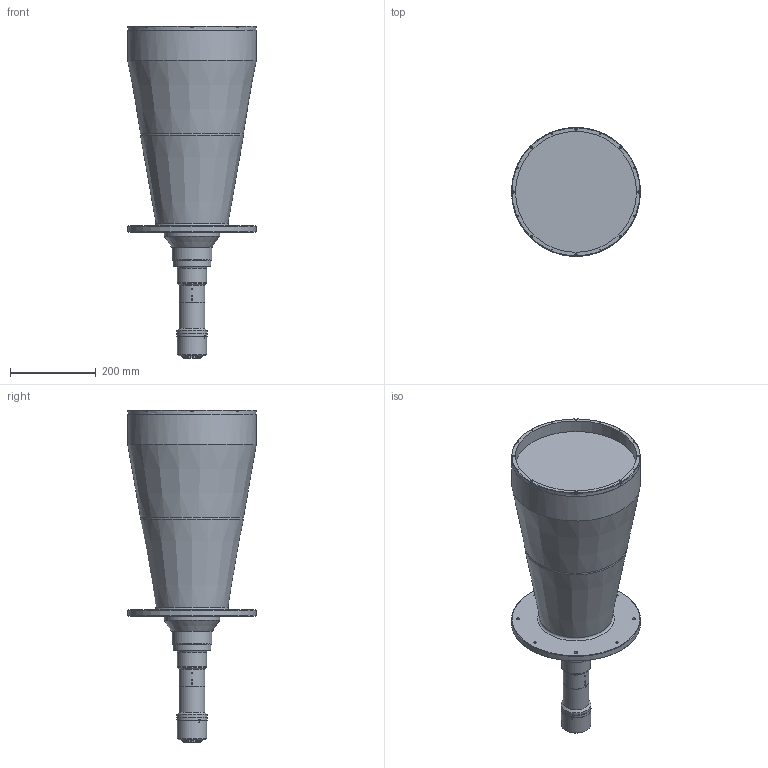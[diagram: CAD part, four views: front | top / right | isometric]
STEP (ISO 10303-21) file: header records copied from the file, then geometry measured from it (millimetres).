
FILE_DESCRIPTION (( 'STEP AP203' ), '1' );
FILE_NAME ('3d_mtl-24035p-015_a002.STEP', '2017-06-23T05:30:30', ( '' ), ( '' ), 'SwSTEP 2.0', 'SolidWorks 2014', '' );
FILE_SCHEMA (( 'CONFIG_CONTROL_DESIGN' ));
Length unit declared in the file: millimetre
Products named in the file (1): 3d_mtl-24035p-015_a002
Bounding box: 300 x 300 x 773.17 mm (x, y, z)
Volume: 22915430 mm3; surface area: 675443.1 mm2
Topology: 1 solids, 9 shells, 834 faces, 1928 edges, 1174 vertices
Faces by surface type: plane 512, cone 182, cylinder 99, torus 33, sphere 8
Full cylindrical faces by diameter (mm): 1.5 x8, 1.6 x4, 2.5 x3, 3.2 x4, 3.5 x8, 3.8 x3, 5 x4, 5.5 x8, 7 x4, 8 x8, 39 x1, 40.916 x1, 41.5 x1, 42 x1, 43 x1, 45 x1, 47 x1, 49 x1, 50 x1, 53 x1, 53.5 x1, 57.5 x1, 59 x1, 60 x2, 68 x3, 69.5 x1, 70 x2, 84.5 x1, 88 x1, 93 x1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
Entity records: 22631 total; most frequent: CARTESIAN_POINT 4875, DIRECTION 3822, ORIENTED_EDGE 3286, EDGE_CURVE 1643, AXIS2_PLACEMENT_3D 1523, EDGE_LOOP 1123, VERTEX_POINT 1088, FACE_OUTER_BOUND 957
